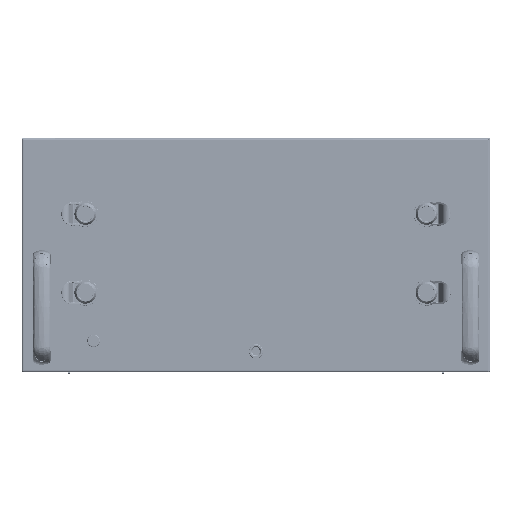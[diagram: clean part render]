
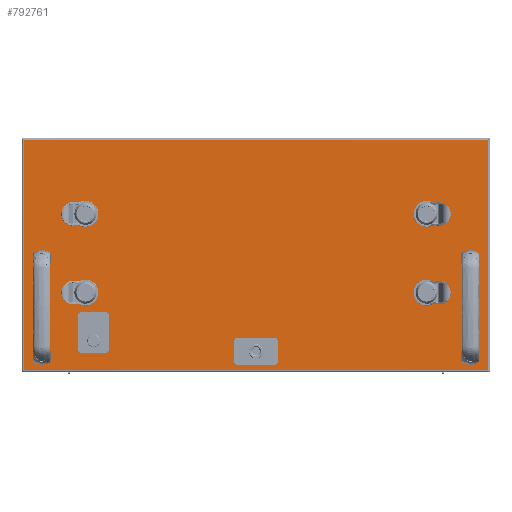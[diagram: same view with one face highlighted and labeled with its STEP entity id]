
A CAD part, front view. The second image highlights one B-rep face of the part: STEP entity #792761.
In plain terms, the highlighted planar face has unit normal (0, -1, 0) as drawn and (0, 0, 1) by its records, which use the part's own axes.
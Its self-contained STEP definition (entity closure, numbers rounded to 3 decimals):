
#790586=CARTESIAN_POINT(' ',(591.7,294.7,0.));
#790591=DIRECTION(' ',(0.,-1.,0.));
#790596=VECTOR(' ',#790591,1.);
#790601=LINE('',#790586,#790596);
#790606=CARTESIAN_POINT(' ',(591.7,294.7,0.));
#790607=VERTEX_POINT(' ',#790606);
#790611=CARTESIAN_POINT(' ',(591.7,2.3,0.));
#790612=VERTEX_POINT(' ',#790611);
#790616=EDGE_CURVE(' ',#790607,#790612,#790601,.T.);
#792041=DIRECTION(' ',(-0.,-0.,1.));
#792046=CARTESIAN_POINT(' ',(591.7,2.3,0.));
#792051=DIRECTION(' ',(0.,1.,0.));
#792056=AXIS2_PLACEMENT_3D(' ',#792046,#792041,#792051);
#792061=PLANE('NONE',#792056);
#792066=CARTESIAN_POINT(' ',(2.3,2.3,0.));
#792071=DIRECTION(' ',(1.,0.,0.));
#792076=VECTOR(' ',#792071,1.);
#792081=LINE('',#792066,#792076);
#792086=CARTESIAN_POINT(' ',(2.3,2.3,0.));
#792087=VERTEX_POINT(' ',#792086);
#792091=EDGE_CURVE(' ',#792087,#790612,#792081,.T.);
#792096=ORIENTED_EDGE(' ',*,*,#792091,.T.);
#792101=ORIENTED_EDGE(' ',*,*,#790616,.F.);
#792106=CARTESIAN_POINT(' ',(591.7,294.7,0.));
#792111=DIRECTION(' ',(-1.,0.,0.));
#792116=VECTOR(' ',#792111,1.);
#792121=LINE('',#792106,#792116);
#792126=CARTESIAN_POINT(' ',(2.3,294.7,0.));
#792127=VERTEX_POINT(' ',#792126);
#792131=EDGE_CURVE(' ',#790607,#792127,#792121,.T.);
#792136=ORIENTED_EDGE(' ',*,*,#792131,.T.);
#792141=CARTESIAN_POINT(' ',(2.3,294.7,0.));
#792146=DIRECTION(' ',(0.,-1.,0.));
#792151=VECTOR(' ',#792146,1.);
#792156=LINE('',#792141,#792151);
#792161=EDGE_CURVE(' ',#792127,#792087,#792156,.T.);
#792166=ORIENTED_EDGE(' ',*,*,#792161,.T.);
#792171=EDGE_LOOP(' ',(#792096,#792101,#792136,#792166));
#792176=FACE_OUTER_BOUND(' ',#792171,.T.);
#792181=CARTESIAN_POINT(' ',(110.85,30.,0.));
#792186=DIRECTION(' ',(0.,1.,0.));
#792191=VECTOR(' ',#792186,1.);
#792196=LINE('',#792181,#792191);
#792201=CARTESIAN_POINT(' ',(110.85,30.,0.));
#792202=VERTEX_POINT(' ',#792201);
#792206=CARTESIAN_POINT(' ',(110.85,71.,0.));
#792207=VERTEX_POINT(' ',#792206);
#792211=EDGE_CURVE(' ',#792202,#792207,#792196,.T.);
#792216=ORIENTED_EDGE(' ',*,*,#792211,.F.);
#792221=CARTESIAN_POINT(' ',(104.85,30.,0.));
#792226=DIRECTION(' ',(0.,-0.,1.));
#792231=DIRECTION(' ',(0.,-1.,0.));
#792236=AXIS2_PLACEMENT_3D(' ',#792221,#792226,#792231);
#792241=CIRCLE('',#792236,6.);
#792246=CARTESIAN_POINT(' ',(104.85,24.,0.));
#792247=VERTEX_POINT(' ',#792246);
#792251=EDGE_CURVE(' ',#792247,#792202,#792241,.T.);
#792256=ORIENTED_EDGE(' ',*,*,#792251,.F.);
#792261=CARTESIAN_POINT(' ',(76.85,24.,0.));
#792266=DIRECTION(' ',(1.,0.,0.));
#792271=VECTOR(' ',#792266,1.);
#792276=LINE('',#792261,#792271);
#792281=CARTESIAN_POINT(' ',(76.85,24.,0.));
#792282=VERTEX_POINT(' ',#792281);
#792286=EDGE_CURVE(' ',#792282,#792247,#792276,.T.);
#792291=ORIENTED_EDGE(' ',*,*,#792286,.F.);
#792296=CARTESIAN_POINT(' ',(76.85,30.,0.));
#792301=DIRECTION(' ',(-0.,-0.,1.));
#792306=DIRECTION(' ',(-1.,0.,0.));
#792311=AXIS2_PLACEMENT_3D(' ',#792296,#792301,#792306);
#792316=CIRCLE('',#792311,6.);
#792321=CARTESIAN_POINT(' ',(70.85,30.,0.));
#792322=VERTEX_POINT(' ',#792321);
#792326=EDGE_CURVE(' ',#792322,#792282,#792316,.T.);
#792331=ORIENTED_EDGE(' ',*,*,#792326,.F.);
#792336=CARTESIAN_POINT(' ',(70.85,71.,0.));
#792341=DIRECTION(' ',(0.,-1.,0.));
#792346=VECTOR(' ',#792341,1.);
#792351=LINE('',#792336,#792346);
#792356=CARTESIAN_POINT(' ',(70.85,71.,0.));
#792357=VERTEX_POINT(' ',#792356);
#792361=EDGE_CURVE(' ',#792357,#792322,#792351,.T.);
#792366=ORIENTED_EDGE(' ',*,*,#792361,.F.);
#792371=CARTESIAN_POINT(' ',(76.85,71.,0.));
#792376=DIRECTION(' ',(0.,0.,1.));
#792381=DIRECTION(' ',(0.,1.,0.));
#792386=AXIS2_PLACEMENT_3D(' ',#792371,#792376,#792381);
#792391=CIRCLE('',#792386,6.);
#792396=CARTESIAN_POINT(' ',(76.85,77.,0.));
#792397=VERTEX_POINT(' ',#792396);
#792401=EDGE_CURVE(' ',#792397,#792357,#792391,.T.);
#792406=ORIENTED_EDGE(' ',*,*,#792401,.F.);
#792411=CARTESIAN_POINT(' ',(104.85,77.,0.));
#792416=DIRECTION(' ',(-1.,0.,0.));
#792421=VECTOR(' ',#792416,1.);
#792426=LINE('',#792411,#792421);
#792431=CARTESIAN_POINT(' ',(104.85,77.,0.));
#792432=VERTEX_POINT(' ',#792431);
#792436=EDGE_CURVE(' ',#792432,#792397,#792426,.T.);
#792441=ORIENTED_EDGE(' ',*,*,#792436,.F.);
#792446=CARTESIAN_POINT(' ',(104.85,71.,0.));
#792451=DIRECTION(' ',(0.,0.,1.));
#792456=DIRECTION(' ',(1.,0.,0.));
#792461=AXIS2_PLACEMENT_3D(' ',#792446,#792451,#792456);
#792466=CIRCLE('',#792461,6.);
#792471=EDGE_CURVE(' ',#792207,#792432,#792466,.T.);
#792476=ORIENTED_EDGE(' ',*,*,#792471,.F.);
#792481=EDGE_LOOP(' ',(#792216,#792256,#792291,#792331,#792366,#792406,#792441,#792476));
#792486=FACE_BOUND(' ',#792481,.T.);
#792491=CARTESIAN_POINT(' ',(297.,26.5,0.));
#792496=DIRECTION(' ',(0.,-0.,-1.));
#792501=DIRECTION(' ',(-1.,0.,0.));
#792506=AXIS2_PLACEMENT_3D(' ',#792491,#792496,#792501);
#792511=CIRCLE('',#792506,10.);
#792516=CARTESIAN_POINT(' ',(287.,26.5,0.));
#792517=VERTEX_POINT(' ',#792516);
#792521=CARTESIAN_POINT(' ',(307.,26.5,0.));
#792522=VERTEX_POINT(' ',#792521);
#792526=EDGE_CURVE(' ',#792517,#792522,#792511,.T.);
#792531=ORIENTED_EDGE(' ',*,*,#792526,.T.);
#792536=CARTESIAN_POINT(' ',(297.,26.5,0.));
#792541=DIRECTION(' ',(0.,0.,-1.));
#792546=DIRECTION(' ',(1.,0.,0.));
#792551=AXIS2_PLACEMENT_3D(' ',#792536,#792541,#792546);
#792556=CIRCLE('',#792551,10.);
#792561=EDGE_CURVE(' ',#792522,#792517,#792556,.T.);
#792566=ORIENTED_EDGE(' ',*,*,#792561,.T.);
#792571=EDGE_LOOP(' ',(#792531,#792566));
#792576=FACE_BOUND(' ',#792571,.T.);
#792581=CARTESIAN_POINT(' ',(25.,23.5,0.));
#792586=DIRECTION(' ',(0.,0.,-1.));
#792591=DIRECTION(' ',(-1.,0.,0.));
#792596=AXIS2_PLACEMENT_3D(' ',#792581,#792586,#792591);
#792601=CIRCLE('',#792596,3.75);
#792606=CARTESIAN_POINT(' ',(21.25,23.5,0.));
#792607=VERTEX_POINT(' ',#792606);
#792611=CARTESIAN_POINT(' ',(28.75,23.5,0.));
#792612=VERTEX_POINT(' ',#792611);
#792616=EDGE_CURVE(' ',#792607,#792612,#792601,.T.);
#792621=ORIENTED_EDGE(' ',*,*,#792616,.T.);
#792626=CARTESIAN_POINT(' ',(25.,23.5,0.));
#792631=DIRECTION(' ',(0.,0.,-1.));
#792636=DIRECTION(' ',(1.,0.,0.));
#792641=AXIS2_PLACEMENT_3D(' ',#792626,#792631,#792636);
#792646=CIRCLE('',#792641,3.75);
#792651=EDGE_CURVE(' ',#792612,#792607,#792646,.T.);
#792656=ORIENTED_EDGE(' ',*,*,#792651,.T.);
#792661=EDGE_LOOP(' ',(#792621,#792656));
#792666=FACE_BOUND(' ',#792661,.T.);
#792671=CARTESIAN_POINT(' ',(25.,143.5,0.));
#792676=DIRECTION(' ',(0.,0.,-1.));
#792681=DIRECTION(' ',(-1.,0.,0.));
#792686=AXIS2_PLACEMENT_3D(' ',#792671,#792676,#792681);
#792691=CIRCLE('',#792686,3.75);
#792696=CARTESIAN_POINT(' ',(21.25,143.5,0.));
#792697=VERTEX_POINT(' ',#792696);
#792701=CARTESIAN_POINT(' ',(28.75,143.5,0.));
#792702=VERTEX_POINT(' ',#792701);
#792706=EDGE_CURVE(' ',#792697,#792702,#792691,.T.);
#792711=ORIENTED_EDGE(' ',*,*,#792706,.T.);
#792716=CARTESIAN_POINT(' ',(25.,143.5,0.));
#792721=DIRECTION(' ',(0.,0.,-1.));
#792726=DIRECTION(' ',(1.,0.,0.));
#792731=AXIS2_PLACEMENT_3D(' ',#792716,#792721,#792726);
#792736=CIRCLE('',#792731,3.75);
#792741=EDGE_CURVE(' ',#792702,#792697,#792736,.T.);
#792746=ORIENTED_EDGE(' ',*,*,#792741,.T.);
#792751=EDGE_LOOP(' ',(#792711,#792746));
#792756=FACE_BOUND(' ',#792751,.T.);
#792761=ADVANCED_FACE('NONE',(#792176,#792486,#792576,#792666,#792756),#792061,.T.);
